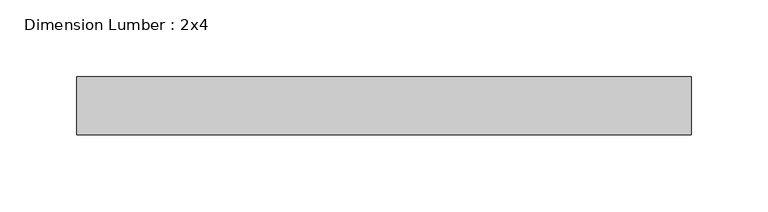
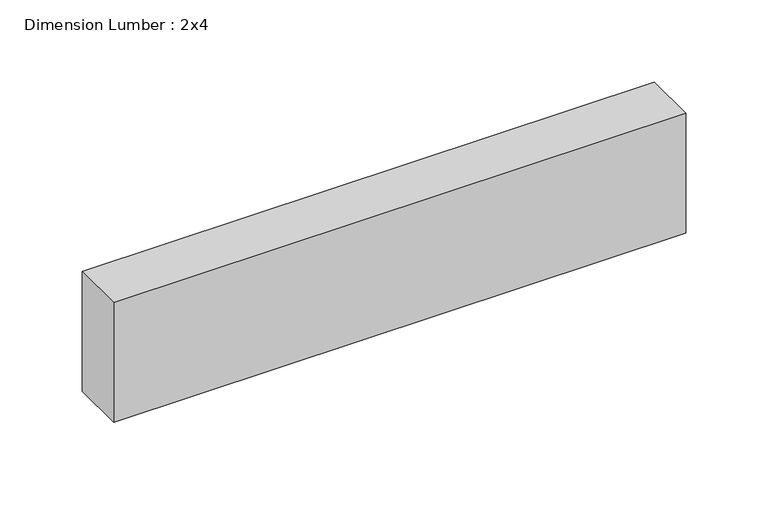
"""IFC4 building model written with IfcOpenShell, lengths in millimetres: beam geometry, Dimension Lumber : 2x4."""

from ifc_helpers import new_model, si_unit, frame, origin, place, context, project, spatial, polyline, outline, extrude, source, transform, mapped, element, save


def dimension_lumber_2x4_565fbc18(model_context):
    return source(origin(), model_context, "Body", "SweptSolid", [
        extrude(outline(polyline([(200.6699219, 19.05), (200.6699219, -19.05), (-200.6699219, -19.05), (-200.6699219, 19.05), (200.6699219, 19.05)])), frame((0.0, 0.0, -44.45), z_axis=(0.0, 0.0, 1.0), x_axis=(1.0, 0.0, 0.0)), (0.0, 0.0, 1.0), 88.9),
    ])


if __name__ == "__main__":
    model = new_model("IFC4")
    model_context = context("Model", 3, world=origin())
    ifc_project = project(units=[si_unit("LENGTHUNIT", "METRE", prefix="MILLI")], contexts=[model_context])
    site = spatial("IfcSite", under=ifc_project)
    building = spatial("IfcBuilding", under=site)
    placement = place(None, origin())
    dimension_lumber_2x4_shape = dimension_lumber_2x4_565fbc18(model_context)
    element("IfcBeam", 1, ObjectType="Dimension Lumber : 2x4", at=placement, inside=building, context=model_context, shape_type="MappedRepresentation", body=[
        mapped(dimension_lumber_2x4_shape, transform((0.0, 0.0, 0.0), x_axis=(1.0, 0.0, 0.0), y_axis=(0.0, 1.0, 0.0), z_axis=(0.0, 0.0, 1.0))),
    ])
    save(model, "model.ifc")
